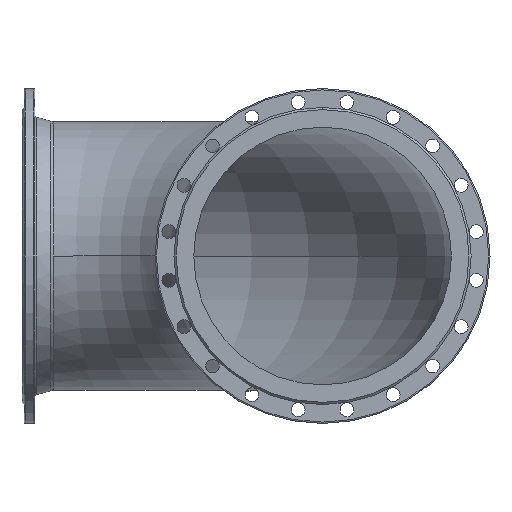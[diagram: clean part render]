
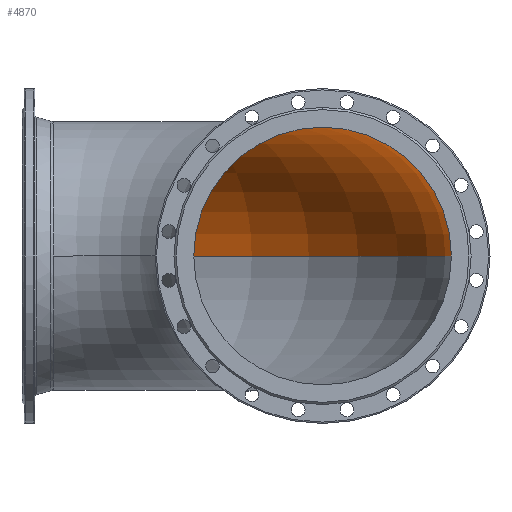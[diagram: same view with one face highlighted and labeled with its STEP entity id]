
A CAD part, front view. The second image highlights one B-rep face of the part: STEP entity #4870.
In plain terms, the highlighted toroidal (fillet/blend) face has major radius 630 mm and minor radius 300 mm.
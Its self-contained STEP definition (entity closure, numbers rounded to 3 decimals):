
#199 = DIRECTION ( 'NONE',  ( 0., 0., -1. ) ) ;
#348 = CARTESIAN_POINT ( 'NONE',  ( 70., 0., 300. ) ) ;
#698 = VERTEX_POINT ( 'NONE', #7100 ) ;
#773 = DIRECTION ( 'NONE',  ( 0., 0., -1. ) ) ;
#1135 = CIRCLE ( 'NONE', #1915, 300. ) ;
#1148 = EDGE_CURVE ( 'Defeatured_0_82+Defeatured_0_83+Defeatured_0_83+Defeatured_0_83', #3726, #698, #1135, .T. ) ;
#1163 = CIRCLE ( 'NONE', #6944, 930. ) ;
#1303 = CARTESIAN_POINT ( 'NONE',  ( 70., 0., 0. ) ) ;
#1359 = CARTESIAN_POINT ( 'NONE',  ( 70., -630., 0. ) ) ;
#1373 = CARTESIAN_POINT ( 'NONE',  ( 70., 0., 0. ) ) ;
#1915 = AXIS2_PLACEMENT_3D ( 'NONE', #1303, #3701, #4798 ) ;
#1956 = CARTESIAN_POINT ( 'NONE',  ( 70., -630., 0. ) ) ;
#2071 = DIRECTION ( 'NONE',  ( 0., 0., -1. ) ) ;
#2140 = EDGE_CURVE ( 'Defeatured_0_83+Defeatured_0_84+Defeatured_0_84+Defeatured_0_84', #3378, #5491, #2642, .T. ) ;
#2458 = ORIENTED_EDGE ( 'NONE', *, *, #4839, .F. ) ;
#2488 = CARTESIAN_POINT ( 'NONE',  ( 70., 300., 0. ) ) ;
#2569 = EDGE_CURVE ( 'NONE', #698, #5491, #5901, .T. ) ;
#2592 = FACE_OUTER_BOUND ( 'NONE', #5036, .T. ) ;
#2642 = CIRCLE ( 'NONE', #7683, 300. ) ;
#2752 = DIRECTION ( 'NONE',  ( 0., 0., -1. ) ) ;
#2895 = ORIENTED_EDGE ( 'NONE', *, *, #5211, .T. ) ;
#2917 = TOROIDAL_SURFACE ( 'NONE', #2923, 630., 300. ) ;
#2923 = AXIS2_PLACEMENT_3D ( 'NONE', #4252, #3622, #6106 ) ;
#3151 = ORIENTED_EDGE ( 'NONE', *, *, #2569, .F. ) ;
#3171 = DIRECTION ( 'NONE',  ( -1., 0., 0. ) ) ;
#3234 = DIRECTION ( 'NONE',  ( 0., -1., 0. ) ) ;
#3378 = VERTEX_POINT ( 'NONE', #6465 ) ;
#3622 = DIRECTION ( 'NONE',  ( 0., 0., -1. ) ) ;
#3701 = DIRECTION ( 'NONE',  ( 1., 0., 0. ) ) ;
#3726 = VERTEX_POINT ( 'NONE', #348 ) ;
#3903 = DIRECTION ( 'NONE',  ( -1., 0., 0. ) ) ;
#4252 = CARTESIAN_POINT ( 'NONE',  ( 70., -630., 0. ) ) ;
#4294 = AXIS2_PLACEMENT_3D ( 'NONE', #1373, #7288, #199 ) ;
#4798 = DIRECTION ( 'NONE',  ( 0., 0., -1. ) ) ;
#4839 = EDGE_CURVE ( 'Defeatured_0_82+Defeatured_0_83+Defeatured_0_83+Defeatured_0_83', #7506, #3726, #6423, .T. ) ;
#4870 = ADVANCED_FACE ( 'Defeatured_0_83', ( #2592 ), #2917, .F. ) ;
#5036 = EDGE_LOOP ( 'NONE', ( #2458, #2895, #5076, #3151, #6523 ) ) ;
#5076 = ORIENTED_EDGE ( 'NONE', *, *, #2140, .T. ) ;
#5197 = CARTESIAN_POINT ( 'NONE',  ( 400., -630., 0. ) ) ;
#5211 = EDGE_CURVE ( 'NONE', #7506, #3378, #1163, .T. ) ;
#5261 = AXIS2_PLACEMENT_3D ( 'NONE', #1359, #773, #3171 ) ;
#5491 = VERTEX_POINT ( 'NONE', #5197 ) ;
#5901 = CIRCLE ( 'NONE', #5261, 330. ) ;
#6106 = DIRECTION ( 'NONE',  ( -1., 0., 0. ) ) ;
#6229 = CARTESIAN_POINT ( 'NONE',  ( 700., -630., 0. ) ) ;
#6423 = CIRCLE ( 'NONE', #4294, 300. ) ;
#6465 = CARTESIAN_POINT ( 'NONE',  ( 1000., -630., 0. ) ) ;
#6523 = ORIENTED_EDGE ( 'NONE', *, *, #1148, .F. ) ;
#6944 = AXIS2_PLACEMENT_3D ( 'NONE', #1956, #2071, #3903 ) ;
#7100 = CARTESIAN_POINT ( 'NONE',  ( 70., -300., 0. ) ) ;
#7288 = DIRECTION ( 'NONE',  ( 1., 0., 0. ) ) ;
#7506 = VERTEX_POINT ( 'NONE', #2488 ) ;
#7683 = AXIS2_PLACEMENT_3D ( 'NONE', #6229, #3234, #2752 ) ;
